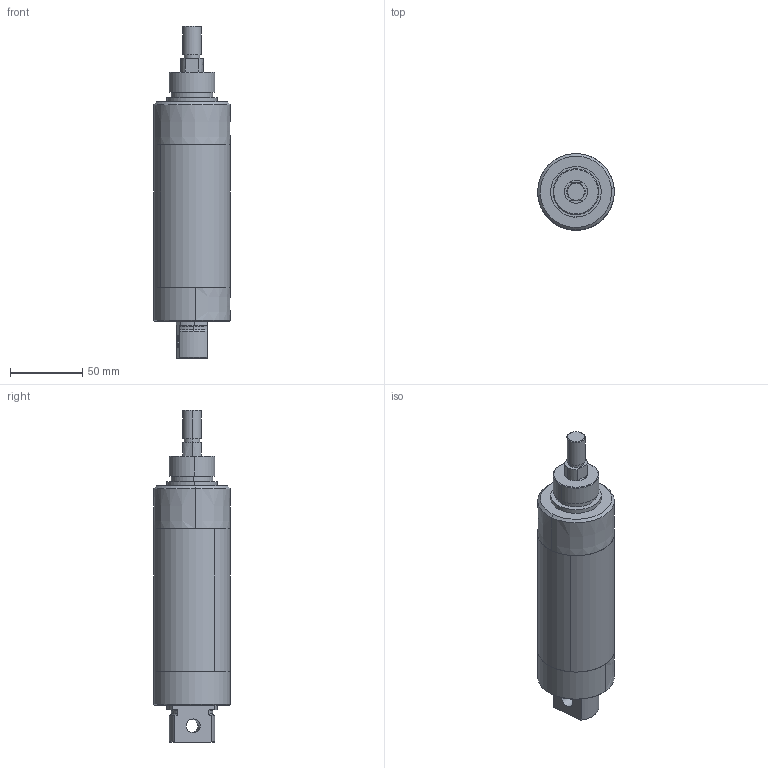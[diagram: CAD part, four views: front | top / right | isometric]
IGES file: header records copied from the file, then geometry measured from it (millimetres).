
Global section: file name: C:\Documents and Settings\Administrator\Desktop\Transfer Temp\cylinder2000x2.igs; native system: AutoDesk Inventor R2.0 ; preprocessor: AutoDesk Inventor Iges Exporter R2.0; author: No Author specified; organization: No Organization specified; date: 20020127.133022; units: inch
Bounding box: 52.77 x 52.7 x 229.24 mm (x, y, z)
Surface area: 66711.3 mm2 (no closed solid volume)
Topology: 0 solids, 0 shells, 88 faces, 420 edges, 420 vertices
Faces by surface type: revolution 44, bspline 44
